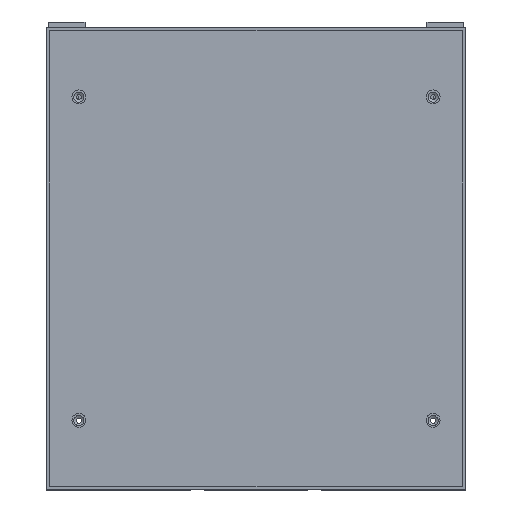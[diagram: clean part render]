
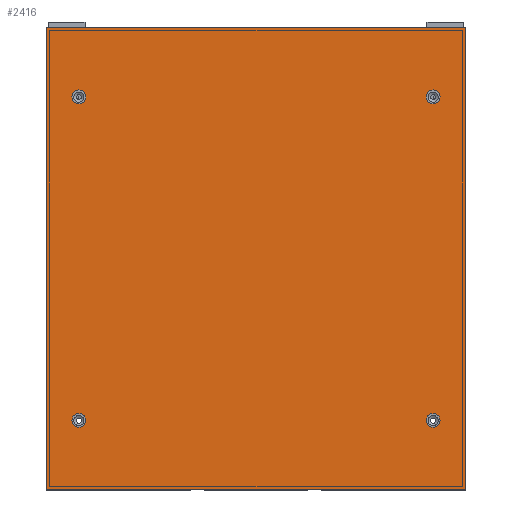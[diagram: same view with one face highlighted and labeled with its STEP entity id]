
A CAD part, top view. The second image highlights one B-rep face of the part: STEP entity #2416.
In plain terms, the highlighted planar face has unit normal (0, 0, 1).
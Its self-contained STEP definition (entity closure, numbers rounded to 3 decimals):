
#302=FACE_BOUND('',#4487,.T.);
#303=FACE_BOUND('',#4488,.T.);
#304=FACE_BOUND('',#4489,.T.);
#305=FACE_BOUND('',#4490,.T.);
#306=FACE_BOUND('',#4491,.T.);
#976=PLANE('',#16931);
#1584=CIRCLE('',#16927,2.25);
#1585=CIRCLE('',#16928,2.25);
#1586=CIRCLE('',#16929,2.25);
#1587=CIRCLE('',#16930,2.25);
#2416=ADVANCED_FACE('',(#302,#303,#304,#305,#306),#976,.F.);
#4487=EDGE_LOOP('',(#6867));
#4488=EDGE_LOOP('',(#6868));
#4489=EDGE_LOOP('',(#6869));
#4490=EDGE_LOOP('',(#6870));
#4491=EDGE_LOOP('',(#6871,#6872,#6873,#6874));
#6867=ORIENTED_EDGE('',*,*,#12634,.F.);
#6868=ORIENTED_EDGE('',*,*,#12635,.F.);
#6869=ORIENTED_EDGE('',*,*,#12636,.F.);
#6870=ORIENTED_EDGE('',*,*,#12637,.F.);
#6871=ORIENTED_EDGE('',*,*,#12321,.F.);
#6872=ORIENTED_EDGE('',*,*,#12638,.F.);
#6873=ORIENTED_EDGE('',*,*,#12239,.F.);
#6874=ORIENTED_EDGE('',*,*,#12639,.F.);
#10576=VERTEX_POINT('',#24712);
#10577=VERTEX_POINT('',#24714);
#10630=VERTEX_POINT('',#24867);
#10631=VERTEX_POINT('',#24869);
#10829=VERTEX_POINT('',#25503);
#10830=VERTEX_POINT('',#25505);
#10831=VERTEX_POINT('',#25507);
#10832=VERTEX_POINT('',#25509);
#12239=EDGE_CURVE('',#10576,#10577,#14286,.T.);
#12321=EDGE_CURVE('',#10630,#10631,#14350,.T.);
#12634=EDGE_CURVE('',#10829,#10829,#1584,.T.);
#12635=EDGE_CURVE('',#10830,#10830,#1585,.T.);
#12636=EDGE_CURVE('',#10831,#10831,#1586,.T.);
#12637=EDGE_CURVE('',#10832,#10832,#1587,.T.);
#12638=EDGE_CURVE('',#10577,#10630,#14540,.T.);
#12639=EDGE_CURVE('',#10631,#10576,#14541,.T.);
#14286=LINE('',#24713,#15464);
#14350=LINE('',#24868,#15528);
#14540=LINE('',#25510,#15718);
#14541=LINE('',#25511,#15719);
#15464=VECTOR('',#18913,1.);
#15528=VECTOR('',#19051,1.);
#15718=VECTOR('',#19741,1.);
#15719=VECTOR('',#19742,1.);
#16927=AXIS2_PLACEMENT_3D('',#25502,#19733,#19734);
#16928=AXIS2_PLACEMENT_3D('',#25504,#19735,#19736);
#16929=AXIS2_PLACEMENT_3D('',#25506,#19737,#19738);
#16930=AXIS2_PLACEMENT_3D('',#25508,#19739,#19740);
#16931=AXIS2_PLACEMENT_3D('',#25512,#19743,#19744);
#18913=DIRECTION('',(0.,1.,0.));
#19051=DIRECTION('',(0.,-1.,0.));
#19733=DIRECTION('',(0.,0.,1.));
#19734=DIRECTION('',(-1.,0.,0.));
#19735=DIRECTION('',(0.,0.,1.));
#19736=DIRECTION('',(1.,0.,0.));
#19737=DIRECTION('',(0.,0.,1.));
#19738=DIRECTION('',(-1.,0.,0.));
#19739=DIRECTION('',(0.,0.,1.));
#19740=DIRECTION('',(1.,0.,0.));
#19741=DIRECTION('',(1.,0.,0.));
#19742=DIRECTION('',(-1.,0.,0.));
#19743=DIRECTION('',(0.,0.,-1.));
#19744=DIRECTION('',(1.,0.,0.));
#24712=CARTESIAN_POINT('',(-68.,-78.,193.));
#24713=CARTESIAN_POINT('',(-68.,72.,193.));
#24714=CARTESIAN_POINT('',(-68.,72.,193.));
#24867=CARTESIAN_POINT('',(68.,72.,193.));
#24868=CARTESIAN_POINT('',(68.,72.,193.));
#24869=CARTESIAN_POINT('',(68.,-78.,193.));
#25502=CARTESIAN_POINT('',(-57.5,-55.5,193.));
#25503=CARTESIAN_POINT('',(-59.75,-55.5,193.));
#25504=CARTESIAN_POINT('',(57.5,-55.5,193.));
#25505=CARTESIAN_POINT('',(59.75,-55.5,193.));
#25506=CARTESIAN_POINT('',(57.5,49.5,193.));
#25507=CARTESIAN_POINT('',(55.25,49.5,193.));
#25508=CARTESIAN_POINT('',(-57.5,49.5,193.));
#25509=CARTESIAN_POINT('',(-55.25,49.5,193.));
#25510=CARTESIAN_POINT('',(68.,72.,193.));
#25511=CARTESIAN_POINT('',(68.,-78.,193.));
#25512=CARTESIAN_POINT('',(0.,-3.,193.));
